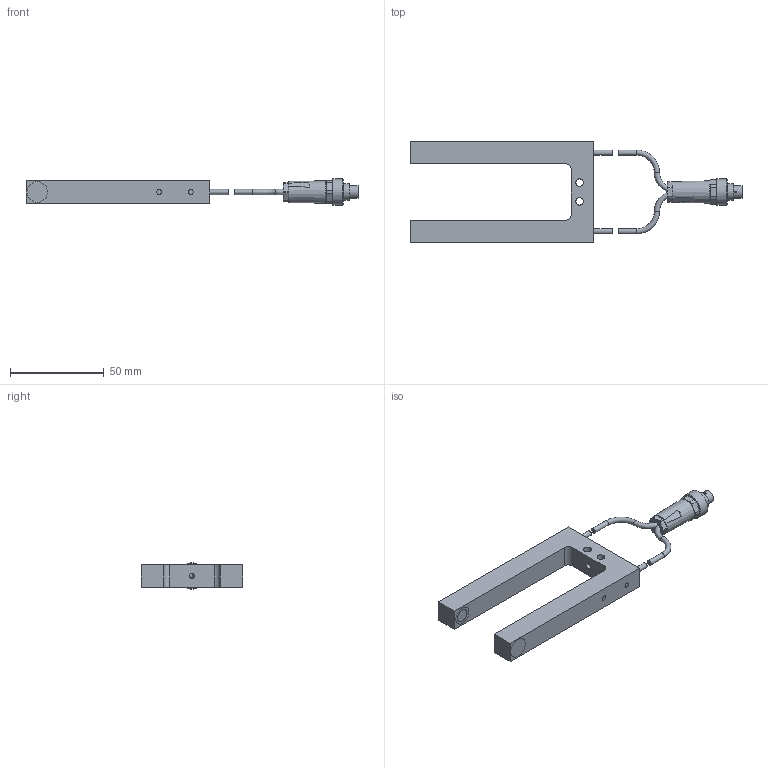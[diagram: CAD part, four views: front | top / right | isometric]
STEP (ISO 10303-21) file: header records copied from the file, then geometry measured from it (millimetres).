
FILE_DESCRIPTION(/* description */ (''),/* implementation_level */ '2;1');
FILE_NAME(/* name */ 'H:\ZVW\Inventor\E-Mail-Zeichnungen\STEP\HOMEPAGE\A-LAS-F12-...-30_80-C_0720_00.stp',/* time_stamp */ '2014-08-18T15:23:02+02:00',/* author */ ('TK-01'),/* organization */ (''),/* preprocessor_version */ 'ST-DEVELOPER v15.2',/* originating_system */ 'Autodesk Inventor 2014',/* authorisation */ '');
FILE_SCHEMA (('AUTOMOTIVE_DESIGN { 1 0 10303 214 3 1 1 }'));
Length unit declared in the file: millimetre
Products named in the file (1): Bauteil11
Bounding box: 177.1 x 54 x 14 mm (x, y, z)
Volume: 132959.3 mm3; surface area: 49618.3 mm2
Topology: 8 solids, 12 shells, 160 faces, 352 edges, 232 vertices
Faces by surface type: plane 72, cylinder 60, cone 11, sphere 9, torus 6, bspline 2
Full cylindrical faces by diameter (mm): 0.5 x7, 2.5 x8, 2.8 x4, 2.9 x2, 3.2 x1, 4.1 x2, 5.5 x1, 6 x1, 6.8 x1, 7.1 x1, 7.15 x2, 7.5 x1, 8 x1, 9 x2, 10 x2, 14 x1
Entity records: 4370 total; most frequent: CARTESIAN_POINT 933, DIRECTION 708, ORIENTED_EDGE 544, AXIS2_PLACEMENT_3D 310, EDGE_CURVE 268, EDGE_LOOP 250, VERTEX_POINT 204, ADVANCED_FACE 160
